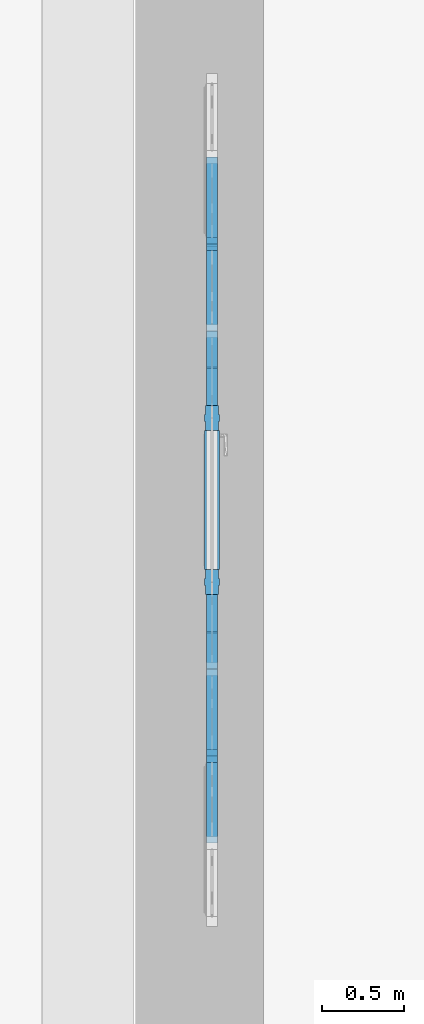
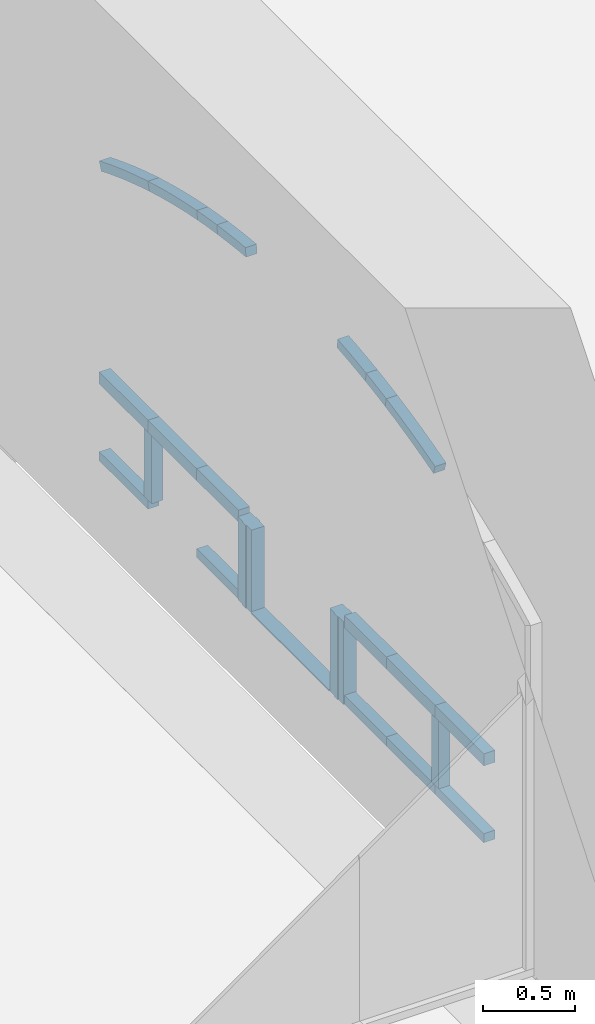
# One storey, part 32 of 88: 23 members, 1 element without a shape of its own.
"""IFC2X3 building model written with IfcOpenShell, lengths in millimetres."""

from ifc_helpers import new_model, entity, si_unit, converted_unit, derived_unit, direction, frame, frame_2d, origin, place, context, subcontext, project, spatial, polyline, circle_curve, parameter, trimmed, segment, composite_curve, rectangle, outline, extrude, source, transform, mapped, material, type_object, type_shapes, element, aggregate, save


model = new_model("IFC2X3")

# Units and contexts
model_context = context("Model", 3, precision=0.01, world=origin(), true_north=direction((6.123031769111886e-17, 1.0)))
body_context = subcontext(model_context, "Body", "Model", "MODEL_VIEW")
ifc_project = project(units=[si_unit("LENGTHUNIT", "METRE", prefix="MILLI"), si_unit("AREAUNIT", "SQUARE_METRE"), si_unit("VOLUMEUNIT", "CUBIC_METRE"), converted_unit("PLANEANGLEUNIT", "DEGREE", entity("IfcPlaneAngleMeasure", 0.017453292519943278), si_unit("PLANEANGLEUNIT", "RADIAN"), dimensions=[0, 0, 0, 0, 0, 0, 0]), si_unit("MASSUNIT", "GRAM", prefix="KILO"), derived_unit("MASSDENSITYUNIT", [(si_unit("MASSUNIT", "GRAM", prefix="KILO"), 1), (si_unit("LENGTHUNIT", "METRE"), -3)]), derived_unit("IONCONCENTRATIONUNIT", [(si_unit("MASSUNIT", "GRAM", prefix="KILO"), 1), (si_unit("LENGTHUNIT", "METRE"), -3)]), derived_unit("MOMENTOFINERTIAUNIT", [(si_unit("LENGTHUNIT", "METRE"), 4)]), si_unit("TIMEUNIT", "SECOND"), si_unit("FREQUENCYUNIT", "HERTZ"), si_unit("THERMODYNAMICTEMPERATUREUNIT", "DEGREE_CELSIUS"), derived_unit("THERMALTRANSMITTANCEUNIT", [(si_unit("MASSUNIT", "GRAM", prefix="KILO"), 1), (si_unit("THERMODYNAMICTEMPERATUREUNIT", "KELVIN"), -1), (si_unit("TIMEUNIT", "SECOND"), -3)]), derived_unit("THERMALCONDUCTANCEUNIT", [(si_unit("MASSUNIT", "GRAM", prefix="KILO"), 1), (si_unit("THERMODYNAMICTEMPERATUREUNIT", "KELVIN"), -1), (si_unit("TIMEUNIT", "SECOND"), -3), (si_unit("LENGTHUNIT", "METRE"), 1)]), derived_unit("VOLUMETRICFLOWRATEUNIT", [(si_unit("LENGTHUNIT", "METRE", prefix="DECI"), 3), (si_unit("TIMEUNIT", "SECOND"), -1)]), derived_unit("MASSFLOWRATEUNIT", [(si_unit("MASSUNIT", "GRAM", prefix="KILO"), 1), (si_unit("TIMEUNIT", "SECOND"), -1)]), derived_unit("ROTATIONALFREQUENCYUNIT", [(si_unit("TIMEUNIT", "SECOND"), -1)]), si_unit("ELECTRICCURRENTUNIT", "AMPERE"), si_unit("ELECTRICVOLTAGEUNIT", "VOLT"), si_unit("POWERUNIT", "WATT"), si_unit("FORCEUNIT", "NEWTON", prefix="KILO"), si_unit("ILLUMINANCEUNIT", "LUX"), si_unit("LUMINOUSFLUXUNIT", "LUMEN"), si_unit("LUMINOUSINTENSITYUNIT", "CANDELA"), si_unit("ENERGYUNIT", "JOULE"), derived_unit("USERDEFINED", [(si_unit("MASSUNIT", "GRAM", prefix="KILO"), -1), (si_unit("LENGTHUNIT", "METRE"), -2), (si_unit("TIMEUNIT", "SECOND"), 3), (si_unit("LUMINOUSFLUXUNIT", "LUMEN"), 1)]), derived_unit("USERDEFINED", [(si_unit("MASSUNIT", "GRAM", prefix="KILO"), 1), (si_unit("TIMEUNIT", "SECOND"), -3), (si_unit("LENGTHUNIT", "METRE"), 3), (si_unit("ELECTRICCURRENTUNIT", "AMPERE"), -2)]), derived_unit("SOUNDPOWERUNIT", [(si_unit("MASSUNIT", "GRAM", prefix="KILO"), 1), (si_unit("TIMEUNIT", "SECOND"), -3), (si_unit("LENGTHUNIT", "METRE"), 2)]), derived_unit("SOUNDPRESSUREUNIT", [(si_unit("MASSUNIT", "GRAM", prefix="KILO"), 1), (si_unit("LENGTHUNIT", "METRE"), -1), (si_unit("TIMEUNIT", "SECOND"), -2)]), derived_unit("LINEARVELOCITYUNIT", [(si_unit("LENGTHUNIT", "METRE"), 1), (si_unit("TIMEUNIT", "SECOND"), -1)]), si_unit("PRESSUREUNIT", "PASCAL"), derived_unit("USERDEFINED", [(si_unit("MASSUNIT", "GRAM", prefix="KILO"), 1), (si_unit("LENGTHUNIT", "METRE"), -2), (si_unit("TIMEUNIT", "SECOND"), -2)]), derived_unit("LINEARFORCEUNIT", [(si_unit("MASSUNIT", "GRAM", prefix="KILO"), 1), (si_unit("TIMEUNIT", "SECOND"), -2)]), derived_unit("PLANARFORCEUNIT", [(si_unit("MASSUNIT", "GRAM", prefix="KILO"), 1), (si_unit("LENGTHUNIT", "METRE"), -1), (si_unit("TIMEUNIT", "SECOND"), -2)]), derived_unit("SPECIFICHEATCAPACITYUNIT", [(si_unit("THERMODYNAMICTEMPERATUREUNIT", "KELVIN"), -1), (si_unit("LENGTHUNIT", "METRE"), 2), (si_unit("TIMEUNIT", "SECOND"), -2)]), derived_unit("HEATFLUXDENSITYUNIT", [(si_unit("MASSUNIT", "GRAM", prefix="KILO"), 1), (si_unit("TIMEUNIT", "SECOND"), -3)]), derived_unit("HEATINGVALUEUNIT", [(si_unit("LENGTHUNIT", "METRE"), 2), (si_unit("TIMEUNIT", "SECOND"), -2)]), derived_unit("VAPORPERMEABILITYUNIT", [(si_unit("LENGTHUNIT", "METRE"), -1), (si_unit("TIMEUNIT", "SECOND"), 1)]), derived_unit("DYNAMICVISCOSITYUNIT", [(si_unit("MASSUNIT", "GRAM", prefix="KILO"), 1), (si_unit("TIMEUNIT", "SECOND"), -1), (si_unit("LENGTHUNIT", "METRE"), -1)]), derived_unit("THERMALEXPANSIONCOEFFICIENTUNIT", [(si_unit("THERMODYNAMICTEMPERATUREUNIT", "KELVIN"), -1)]), derived_unit("MODULUSOFELASTICITYUNIT", [(si_unit("MASSUNIT", "GRAM", prefix="KILO"), 1), (si_unit("LENGTHUNIT", "METRE"), -1), (si_unit("TIMEUNIT", "SECOND"), -2)]), derived_unit("ISOTHERMALMOISTURECAPACITYUNIT", [(si_unit("MASSUNIT", "GRAM", prefix="KILO"), -1), (si_unit("LENGTHUNIT", "METRE"), 3)]), derived_unit("MOISTUREDIFFUSIVITYUNIT", [(si_unit("TIMEUNIT", "SECOND"), -1), (si_unit("LENGTHUNIT", "METRE"), 2)]), derived_unit("MASSPERLENGTHUNIT", [(si_unit("MASSUNIT", "GRAM", prefix="KILO"), 1), (si_unit("LENGTHUNIT", "METRE"), -1)]), derived_unit("THERMALRESISTANCEUNIT", [(si_unit("MASSUNIT", "GRAM", prefix="KILO"), -1), (si_unit("TIMEUNIT", "SECOND"), 3), (si_unit("THERMODYNAMICTEMPERATUREUNIT", "KELVIN"), 1)]), derived_unit("ACCELERATIONUNIT", [(si_unit("LENGTHUNIT", "METRE"), 1), (si_unit("TIMEUNIT", "SECOND"), -2)]), derived_unit("ANGULARVELOCITYUNIT", [(si_unit("TIMEUNIT", "SECOND"), -1), (si_unit("PLANEANGLEUNIT", "RADIAN"), 1)]), derived_unit("LINEARSTIFFNESSUNIT", [(si_unit("MASSUNIT", "GRAM", prefix="KILO"), 1), (si_unit("TIMEUNIT", "SECOND"), -2)]), derived_unit("WARPINGCONSTANTUNIT", [(si_unit("LENGTHUNIT", "METRE"), 6)]), derived_unit("LINEARMOMENTUNIT", [(si_unit("MASSUNIT", "GRAM", prefix="KILO"), 1), (si_unit("LENGTHUNIT", "METRE"), 1), (si_unit("TIMEUNIT", "SECOND"), -2)]), derived_unit("TORQUEUNIT", [(si_unit("MASSUNIT", "GRAM", prefix="KILO"), 1), (si_unit("LENGTHUNIT", "METRE"), 2), (si_unit("TIMEUNIT", "SECOND"), -2)])], contexts=[model_context])

# Site, building, storey
site_placement = place(None, origin())
site = spatial("IfcSite", under=ifc_project, at=site_placement, Name="Default", CompositionType="ELEMENT")
building_placement = place(site_placement, origin())
building = spatial("IfcBuilding", under=site, at=building_placement, Name="Eesti Rahvusraamatukogu hoone renoveerimise projekteerimistööd", CompositionType="ELEMENT")
storey_placement = place(building_placement, origin())
storey = spatial("IfcBuildingStorey", under=building, at=storey_placement, Name="1. korrus", CompositionType="ELEMENT", Elevation=0.0)

# Curtain wall, members
curtain_wall_type = type_object("IfcCurtainWallType", Name="Curtain Wall:Ak-05", PredefinedType="NOTDEFINED")
curtain_wall_placement = place(storey_placement, origin())
curtain_wall = element("IfcCurtainWall", 1, at=curtain_wall_placement, inside=storey, type_object=curtain_wall_type, Name="Curtain Wall:Ak-05", ObjectType="Curtain Wall:Ak-05")
ifc_material_1 = material(Name="LUMION_dark steel window frames")
member_type_1 = type_object("IfcMemberType", Name="Rectangular Mullion:NEW 60x70mm", PredefinedType="MULLION", material=ifc_material_1)
shared_shape_1 = source(origin(), body_context, "Body", "SweptSolid", [
    extrude(outline(composite_curve([segment(polyline([(-43.38278695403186, -270.80676601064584), (16.61721304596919, -270.80676601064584)]), True, "CONTINUOUS"), segment(trimmed(circle_curve(frame_2d((5479.897779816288, -270.80676601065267), x_axis=(-0.9951275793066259, 0.09859564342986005)), 5463.280566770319), [parameter(3.5622212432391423e-13)], [parameter(5.658307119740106)], True, "PARAMETER"), False, "CONTINUOUS"), segment(polyline([(43.23661433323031, 267.8488967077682), (-16.471040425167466, 273.7646353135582)]), True, "CONTINUOUS"), segment(trimmed(circle_curve(frame_2d((5479.897779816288, -270.80676601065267), x_axis=(-0.9951275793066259, 0.09859564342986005)), 5523.280566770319), [parameter(3.5622212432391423e-13)], [parameter(5.658307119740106)], True, "PARAMETER"), True, "CONTINUOUS")], self_intersect=False)), frame((-43.382786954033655, -35.0, -270.8067660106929), z_axis=(0.0, 1.0, 0.0), x_axis=(-0.9951275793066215, 0.0, 0.09859564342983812)), (0.0, 0.0, 1.0), 69.99999999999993),
])
type_shapes(member_type_1, [shared_shape_1])
member_1_placement = place(curtain_wall_placement, frame((-42905.0, 25865.0, 2125.118079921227), z_axis=(0.0, -0.9592847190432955, -0.28244083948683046), x_axis=(0.0, -0.28244083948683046, 0.9592847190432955)))
member_1 = element("IfcMember", 2, at=member_1_placement, type_object=member_type_1, material=ifc_material_1, Name="Rectangular Mullion:NEW 60x70mm", ObjectType="Rectangular Mullion:NEW 60x70mm", context=body_context, shape_type="MappedRepresentation", body=[
    mapped(shared_shape_1, transform((0.0, 0.0, 0.0), scale=1.0)),
])
member_type_2 = type_object("IfcMemberType", Name="Rectangular Mullion:NEW 60x70mm", PredefinedType="MULLION", material=ifc_material_1)
shared_shape_2 = source(origin(), body_context, "Body", "SweptSolid", [
    extrude(outline(composite_curve([segment(polyline([(-32.20246871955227, -109.97239538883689), (27.79753128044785, -109.97239538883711)]), True, "CONTINUOUS"), segment(trimmed(circle_curve(frame_2d((5491.078098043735, -109.97239538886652), x_axis=(-0.9991981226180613, 0.040038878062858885)), 5463.280566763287), [parameter(3.5622212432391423e-13)], [parameter(2.2946721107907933)], True, "PARAMETER"), False, "CONTINUOUS"), segment(polyline([(32.17841239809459, 108.77122904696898), (-27.7734749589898, 111.17356173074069)]), True, "CONTINUOUS"), segment(trimmed(circle_curve(frame_2d((5491.078098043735, -109.97239538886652), x_axis=(-0.9991981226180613, 0.040038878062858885)), 5523.280566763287), [parameter(3.5622212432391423e-13)], [parameter(2.2946721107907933)], True, "PARAMETER"), True, "CONTINUOUS")], self_intersect=False)), frame((-32.202468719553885, -35.0, -109.9723953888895), z_axis=(0.0, 1.0, 0.0), x_axis=(-0.9991981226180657, 0.0, 0.04003887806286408)), (0.0, 0.0, 1.0), 69.99999999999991),
])
type_shapes(member_type_2, [shared_shape_2])
member_2_placement = place(curtain_wall_placement, frame((-42905.0, 26395.0, 2253.1112564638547), z_axis=(0.0, -0.9824581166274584, -0.18648337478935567), x_axis=(0.0, -0.18648337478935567, 0.9824581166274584)))
member_2 = element("IfcMember", 3, at=member_2_placement, type_object=member_type_2, material=ifc_material_1, Name="Rectangular Mullion:NEW 60x70mm", ObjectType="Rectangular Mullion:NEW 60x70mm", context=body_context, shape_type="MappedRepresentation", body=[
    mapped(shared_shape_2, transform((0.0, 0.0, 0.0), scale=1.0)),
])
member_type_3 = type_object("IfcMemberType", Name="Rectangular Mullion:NEW 60x70mm", PredefinedType="MULLION", material=ifc_material_1)
shared_shape_3 = source(origin(), body_context, "Body", "SweptSolid", [
    extrude(outline(composite_curve([segment(polyline([(-44.19959331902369, -278.9278071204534), (15.8004066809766, -278.92780712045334)]), True, "CONTINUOUS"), segment(trimmed(circle_curve(frame_2d((5479.0809734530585, -278.9278071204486), x_axis=(-0.9948301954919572, 0.10155236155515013)), 5463.28056677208), [parameter(3.5622212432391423e-13)], [parameter(5.828569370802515)], True, "PARAMETER"), False, "CONTINUOUS"), segment(polyline([(44.04449918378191, 275.88123627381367), (-15.645312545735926, 281.97437796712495)]), True, "CONTINUOUS"), segment(trimmed(circle_curve(frame_2d((5479.0809734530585, -278.9278071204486), x_axis=(-0.9948301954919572, 0.10155236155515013)), 5523.28056677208), [parameter(3.5622212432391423e-13)], [parameter(5.828569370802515)], True, "PARAMETER"), True, "CONTINUOUS")], self_intersect=False)), frame((-44.199593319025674, -35.0, -278.9278071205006), z_axis=(0.0, 1.0, 0.0), x_axis=(-0.994830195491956, 0.0, 0.1015523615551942)), (0.0, 0.0, 1.0), 70.0),
])
type_shapes(member_type_3, [shared_shape_3])
member_3_placement = place(curtain_wall_placement, frame((-42905.0, 28985.0, 2125.118079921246), z_axis=(0.0, -0.9592847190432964, 0.28244083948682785), x_axis=(0.0, 0.28244083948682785, 0.9592847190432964)))
member_3 = element("IfcMember", 4, at=member_3_placement, type_object=member_type_3, material=ifc_material_1, Name="Rectangular Mullion:NEW 60x70mm", ObjectType="Rectangular Mullion:NEW 60x70mm", context=body_context, shape_type="MappedRepresentation", body=[
    mapped(shared_shape_3, transform((0.0, 0.0, 0.0), scale=1.0)),
])
member_type_4 = type_object("IfcMemberType", Name="Rectangular Mullion:NEW 60x70mm", PredefinedType="MULLION", material=ifc_material_1)
shared_shape_4 = source(origin(), body_context, "Body", "SweptSolid", [
    extrude(outline(composite_curve([segment(polyline([(-43.38278695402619, -270.80676601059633), (16.61721304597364, -270.8067660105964)]), True, "CONTINUOUS"), segment(trimmed(circle_curve(frame_2d((5479.897779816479, -270.8067660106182), x_axis=(-0.9951275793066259, 0.0985956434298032)), 5463.280566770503), [parameter(3.5622212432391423e-13)], [parameter(5.658307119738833)], True, "PARAMETER"), False, "CONTINUOUS"), segment(polyline([(43.23661433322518, 267.848896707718), (-16.471040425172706, 273.76463531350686)]), True, "CONTINUOUS"), segment(trimmed(circle_curve(frame_2d((5479.897779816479, -270.8067660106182), x_axis=(-0.9951275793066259, 0.0985956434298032)), 5523.280566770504), [parameter(3.5622212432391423e-13)], [parameter(5.658307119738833)], True, "PARAMETER"), True, "CONTINUOUS")], self_intersect=False)), frame((-43.38278695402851, -35.0, -270.8067660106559), z_axis=(0.0, 1.0, 0.0), x_axis=(-0.9951275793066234, 0.0, 0.09859564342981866)), (0.0, 0.0, 1.0), 69.99999999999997),
])
type_shapes(member_type_4, [shared_shape_4])
member_4_placement = place(curtain_wall_placement, frame((-42905.0, 28455.0, 2253.1112564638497), z_axis=(0.0, -0.9824581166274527, 0.18648337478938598), x_axis=(0.0, 0.18648337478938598, 0.9824581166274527)))
member_4 = element("IfcMember", 5, at=member_4_placement, type_object=member_type_4, material=ifc_material_1, Name="Rectangular Mullion:NEW 60x70mm", ObjectType="Rectangular Mullion:NEW 60x70mm", context=body_context, shape_type="MappedRepresentation", body=[
    mapped(shared_shape_4, transform((0.0, 0.0, 0.0), scale=1.0)),
])
member_type_5 = type_object("IfcMemberType", Name="Rectangular Mullion:NEW 60x70mm", PredefinedType="MULLION", material=ifc_material_1)
shared_shape_5 = source(origin(), body_context, "Body", "SweptSolid", [
    extrude(outline(composite_curve([segment(polyline([(-34.44225079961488, -156.14991642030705), (25.5577492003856, -156.14991642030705)]), True, "CONTINUOUS"), segment(trimmed(circle_curve(frame_2d((5488.8383159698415, -156.14991642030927), x_axis=(-0.9983826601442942, 0.05685124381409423)), 5463.280566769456), [parameter(3.5622212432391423e-13)], [parameter(3.2590935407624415)], True, "PARAMETER"), False, "CONTINUOUS"), segment(polyline([(34.393730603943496, 154.44437910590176), (-25.509229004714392, 157.8554537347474)]), True, "CONTINUOUS"), segment(trimmed(circle_curve(frame_2d((5488.8383159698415, -156.14991642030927), x_axis=(-0.9983826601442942, 0.05685124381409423)), 5523.280566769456), [parameter(3.5622212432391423e-13)], [parameter(3.2590935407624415)], True, "PARAMETER"), True, "CONTINUOUS")], self_intersect=False)), frame((-34.44225079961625, -35.0, -156.14991642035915), z_axis=(0.0, 1.0, 0.0), x_axis=(-0.9983826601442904, 0.0, 0.056851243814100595)), (0.0, 0.0, 1.0), 69.99999999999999),
])
type_shapes(member_type_5, [shared_shape_5])
member_5_placement = place(curtain_wall_placement, frame((-42905.0, 27925.0, 2327.3219656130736), z_axis=(0.0, -0.9958941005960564, 0.09052591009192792), x_axis=(0.0, 0.09052591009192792, 0.9958941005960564)))
member_5 = element("IfcMember", 6, at=member_5_placement, type_object=member_type_5, material=ifc_material_1, Name="Rectangular Mullion:NEW 60x70mm", ObjectType="Rectangular Mullion:NEW 60x70mm", context=body_context, shape_type="MappedRepresentation", body=[
    mapped(shared_shape_5, transform((0.0, 0.0, 0.0), scale=1.0)),
])
member_type_6 = type_object("IfcMemberType", Name="Rectangular Mullion:NEW 150x90mm", PredefinedType="MULLION", material=ifc_material_1)
shared_shape_6 = source(origin(), body_context, "Body", "SweptSolid", [
    extrude(outline(polyline([(40.0, -20.0), (45.0, -20.0), (45.0, 20.0), (40.0, 20.0), (40.0, 75.0), (-40.0, 75.0), (-40.0, 20.0), (-45.0, 20.0), (-45.0, -20.0), (-40.0, -20.0), (-40.0, -75.0), (40.0, -75.0), (40.0, -20.0)])), frame((0.0, 0.0, -550.0), z_axis=(0.0, 0.0, 1.0), x_axis=(0.0, -1.0, 0.0)), (0.0, 0.0, 1.0), 550.0000000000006),
])
type_shapes(member_type_6, [shared_shape_6])
member_6_placement = place(curtain_wall_placement, frame((-42905.0, 27925.0, -50.0), z_axis=(0.0, 0.0, -1.0), x_axis=(0.0, -1.0, 0.0)))
member_6 = element("IfcMember", 7, at=member_6_placement, type_object=member_type_6, material=ifc_material_1, Name="Rectangular Mullion:NEW 150x90mm", ObjectType="Rectangular Mullion:NEW 150x90mm", context=body_context, shape_type="MappedRepresentation", body=[
    mapped(shared_shape_6, transform((0.0, 0.0, 0.0), scale=1.0)),
])
member_7_placement = place(curtain_wall_placement, frame((-42905.0, 26925.0, -50.0), z_axis=(0.0, 0.0, -1.0), x_axis=(0.0, -1.0, 0.0)))
member_7 = element("IfcMember", 8, at=member_7_placement, type_object=member_type_6, material=ifc_material_1, Name="Rectangular Mullion:NEW 150x90mm", ObjectType="Rectangular Mullion:NEW 150x90mm", context=body_context, shape_type="MappedRepresentation", body=[
    mapped(shared_shape_6, transform((0.0, 0.0, 0.0), scale=1.0)),
])
member_type_7 = type_object("IfcMemberType", Name="Rectangular Mullion:NEW 80x70mm", PredefinedType="MULLION", material=ifc_material_1)
shared_shape_7 = source(origin(), body_context, "Body", "SweptSolid", [
    extrude(rectangle(XDim=80.0, YDim=70.0, at=frame_2d((0.0, -3.552713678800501e-15), x_axis=(1.0, 0.0))), frame((0.0, 0.0, -530.0), z_axis=(0.0, 0.0, 1.0), x_axis=(-1.0, 0.0, 0.0)), (0.0, 0.0, 1.0), 530.0000000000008),
])
type_shapes(member_type_7, [shared_shape_7])
member_8_placement = place(curtain_wall_placement, frame((-42905.0, 25335.0, 500.0), z_axis=(0.0, -1.0, 0.0), x_axis=(0.0, 0.0, 1.0)))
member_8 = element("IfcMember", 9, at=member_8_placement, type_object=member_type_7, material=ifc_material_1, Name="Rectangular Mullion:NEW 80x70mm", ObjectType="Rectangular Mullion:NEW 80x70mm", context=body_context, shape_type="MappedRepresentation", body=[
    mapped(shared_shape_7, transform((0.0, 0.0, 0.0), scale=1.0)),
])
member_9_placement = place(curtain_wall_placement, frame((-42905.0, 25865.0, 500.0), z_axis=(0.0, -1.0, 0.0), x_axis=(0.0, 0.0, 1.0)))
member_9 = element("IfcMember", 10, at=member_9_placement, type_object=member_type_7, material=ifc_material_1, Name="Rectangular Mullion:NEW 80x70mm", ObjectType="Rectangular Mullion:NEW 80x70mm", context=body_context, shape_type="MappedRepresentation", body=[
    mapped(shared_shape_7, transform((0.0, 0.0, 0.0), scale=1.0)),
])
member_10_placement = place(curtain_wall_placement, frame((-42905.0, 28985.0, 500.0), z_axis=(0.0, -1.0, 0.0), x_axis=(0.0, 0.0, 1.0)))
member_10 = element("IfcMember", 11, at=member_10_placement, type_object=member_type_7, material=ifc_material_1, Name="Rectangular Mullion:NEW 80x70mm", ObjectType="Rectangular Mullion:NEW 80x70mm", context=body_context, shape_type="MappedRepresentation", body=[
    mapped(shared_shape_7, transform((0.0, 0.0, 0.0), scale=1.0)),
])
member_11_placement = place(curtain_wall_placement, frame((-42905.0, 28455.0, 500.0), z_axis=(0.0, -1.0, 0.0), x_axis=(0.0, 0.0, 1.0)))
member_11 = element("IfcMember", 12, at=member_11_placement, type_object=member_type_7, material=ifc_material_1, Name="Rectangular Mullion:NEW 80x70mm", ObjectType="Rectangular Mullion:NEW 80x70mm", context=body_context, shape_type="MappedRepresentation", body=[
    mapped(shared_shape_7, transform((0.0, 0.0, 0.0), scale=1.0)),
])
member_type_8 = type_object("IfcMemberType", Name="Rectangular Mullion:NEW 80x70mm", PredefinedType="MULLION", material=ifc_material_1)
shared_shape_8 = source(origin(), body_context, "Body", "SweptSolid", [
    extrude(rectangle(XDim=80.0, YDim=70.0, at=frame_2d((0.0, -3.552713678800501e-15), x_axis=(1.0, 0.0))), frame((0.0, 0.0, -455.0), z_axis=(0.0, 0.0, 1.0), x_axis=(-1.0, 0.0, 0.0)), (0.0, 0.0, 1.0), 455.0000000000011),
])
type_shapes(member_type_8, [shared_shape_8])
member_12_placement = place(curtain_wall_placement, frame((-42905.0, 28000.0, 500.0), z_axis=(0.0, -1.0, 0.0), x_axis=(0.0, 0.0, 1.0)))
member_12 = element("IfcMember", 13, at=member_12_placement, type_object=member_type_8, material=ifc_material_1, Name="Rectangular Mullion:NEW 80x70mm", ObjectType="Rectangular Mullion:NEW 80x70mm", context=body_context, shape_type="MappedRepresentation", body=[
    mapped(shared_shape_8, transform((0.0, 0.0, 0.0), scale=1.0)),
])
member_type_9 = type_object("IfcMemberType", Name="Rectangular Mullion:NEW 80x70mm", PredefinedType="MULLION", material=ifc_material_1)
shared_shape_9 = source(origin(), body_context, "Body", "SweptSolid", [
    extrude(rectangle(XDim=80.0, YDim=70.0, at=frame_2d((0.0, -3.552713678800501e-15), x_axis=(1.0, 0.0))), frame((0.0, 0.0, -455.0), z_axis=(0.0, 0.0, 1.0), x_axis=(-1.0, 0.0, 0.0)), (0.0, 0.0, 1.0), 455.0000000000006),
])
type_shapes(member_type_9, [shared_shape_9])
member_13_placement = place(curtain_wall_placement, frame((-42905.0, 26395.0, 500.0), z_axis=(0.0, -1.0, 0.0), x_axis=(0.0, 0.0, 1.0)))
member_13 = element("IfcMember", 14, at=member_13_placement, type_object=member_type_9, material=ifc_material_1, Name="Rectangular Mullion:NEW 80x70mm", ObjectType="Rectangular Mullion:NEW 80x70mm", context=body_context, shape_type="MappedRepresentation", body=[
    mapped(shared_shape_9, transform((0.0, 0.0, 0.0), scale=1.0)),
])
member_type_10 = type_object("IfcMemberType", Name="Rectangular Mullion:NEW 80x70mm", PredefinedType="MULLION", material=ifc_material_1)
shared_shape_10 = source(origin(), body_context, "Body", "SweptSolid", [
    extrude(rectangle(XDim=80.0, YDim=70.0, at=frame_2d((0.0, 3.552713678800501e-15), x_axis=(1.0, 0.0))), frame((0.0, 0.0, -450.0), z_axis=(0.0, 0.0, 1.0), x_axis=(-1.0, 0.0, 0.0)), (0.0, 0.0, 1.0), 450.00000000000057),
])
type_shapes(member_type_10, [shared_shape_10])
member_14_placement = place(curtain_wall_placement, frame((-42905.0, 25865.0, 10.0), z_axis=(0.0, 0.0, -1.0), x_axis=(0.0, -1.0, 0.0)))
member_14 = element("IfcMember", 15, at=member_14_placement, type_object=member_type_10, material=ifc_material_1, Name="Rectangular Mullion:NEW 80x70mm", ObjectType="Rectangular Mullion:NEW 80x70mm", context=body_context, shape_type="MappedRepresentation", body=[
    mapped(shared_shape_10, transform((0.0, 0.0, 0.0), scale=1.0)),
])
member_15_placement = place(curtain_wall_placement, frame((-42905.0, 28985.0, 10.0), z_axis=(0.0, 0.0, -1.0), x_axis=(0.0, -1.0, 0.0)))
member_15 = element("IfcMember", 16, at=member_15_placement, type_object=member_type_10, material=ifc_material_1, Name="Rectangular Mullion:NEW 80x70mm", ObjectType="Rectangular Mullion:NEW 80x70mm", context=body_context, shape_type="MappedRepresentation", body=[
    mapped(shared_shape_10, transform((0.0, 0.0, 0.0), scale=1.0)),
])
member_type_11 = type_object("IfcMemberType", Name="Rectangular Mullion:NEW 60x70mm", PredefinedType="MULLION", material=ifc_material_1)
shared_shape_11 = source(origin(), body_context, "Body", "SweptSolid", [
    extrude(rectangle(XDim=60.0, YDim=70.0, at=frame_2d((0.0, 3.552713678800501e-15), x_axis=(1.0, 0.0))), frame((-30.0, 0.0, -530.0), z_axis=(0.0, 0.0, 1.0), x_axis=(-1.0, 0.0, 0.0)), (0.0, 0.0, 1.0), 530.0000000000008),
])
type_shapes(member_type_11, [shared_shape_11])
member_16_placement = place(curtain_wall_placement, frame((-42905.0, 25865.0, -50.0), z_axis=(0.0, 1.0, 0.0), x_axis=(0.0, 0.0, -1.0)))
member_16 = element("IfcMember", 17, at=member_16_placement, type_object=member_type_11, material=ifc_material_1, Name="Rectangular Mullion:NEW 60x70mm", ObjectType="Rectangular Mullion:NEW 60x70mm", context=body_context, shape_type="MappedRepresentation", body=[
    mapped(shared_shape_11, transform((0.0, 0.0, 0.0), scale=1.0)),
])
member_type_12 = type_object("IfcMemberType", Name="Rectangular Mullion:NEW 60x70mm", PredefinedType="MULLION", material=ifc_material_1)
shared_shape_12 = source(origin(), body_context, "Body", "SweptSolid", [
    extrude(rectangle(XDim=60.0, YDim=70.0, at=frame_2d((0.0, 3.552713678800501e-15), x_axis=(1.0, 0.0))), frame((-30.0, 0.0, -530.0), z_axis=(0.0, 0.0, 1.0), x_axis=(-1.0, 0.0, 0.0)), (0.0, 0.0, 1.0), 530.0000000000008),
])
type_shapes(member_type_12, [shared_shape_12])
member_17_placement = place(curtain_wall_placement, frame((-42905.0, 26395.0, -50.0), z_axis=(0.0, 1.0, 0.0), x_axis=(0.0, 0.0, -1.0)))
member_17 = element("IfcMember", 18, at=member_17_placement, type_object=member_type_12, material=ifc_material_1, Name="Rectangular Mullion:NEW 60x70mm", ObjectType="Rectangular Mullion:NEW 60x70mm", context=body_context, shape_type="MappedRepresentation", body=[
    mapped(shared_shape_12, transform((0.0, 0.0, 0.0), scale=1.0)),
])
member_18_placement = place(curtain_wall_placement, frame((-42905.0, 29515.0, -50.0), z_axis=(0.0, 1.0, 0.0), x_axis=(0.0, 0.0, -1.0)))
member_18 = element("IfcMember", 19, at=member_18_placement, type_object=member_type_12, material=ifc_material_1, Name="Rectangular Mullion:NEW 60x70mm", ObjectType="Rectangular Mullion:NEW 60x70mm", context=body_context, shape_type="MappedRepresentation", body=[
    mapped(shared_shape_12, transform((0.0, 0.0, 0.0), scale=1.0)),
])
member_type_13 = type_object("IfcMemberType", Name="Rectangular Mullion:NEW 60x70mm", PredefinedType="MULLION", material=ifc_material_1)
shared_shape_13 = source(origin(), body_context, "Body", "SweptSolid", [
    extrude(rectangle(XDim=60.0, YDim=70.0, at=frame_2d((0.0, 3.552713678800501e-15), x_axis=(1.0, 0.0))), frame((-30.0, 0.0, -455.0), z_axis=(0.0, 0.0, 1.0), x_axis=(-1.0, 0.0, 0.0)), (0.0, 0.0, 1.0), 455.0000000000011),
])
type_shapes(member_type_13, [shared_shape_13])
member_19_placement = place(curtain_wall_placement, frame((-42905.0, 28455.0, -50.0), z_axis=(0.0, 1.0, 0.0), x_axis=(0.0, 0.0, -1.0)))
member_19 = element("IfcMember", 20, at=member_19_placement, type_object=member_type_13, material=ifc_material_1, Name="Rectangular Mullion:NEW 60x70mm", ObjectType="Rectangular Mullion:NEW 60x70mm", context=body_context, shape_type="MappedRepresentation", body=[
    mapped(shared_shape_13, transform((0.0, 0.0, 0.0), scale=1.0)),
])
member_type_14 = type_object("IfcMemberType", Name="Rectangular Mullion:NEW 60x70mm", PredefinedType="MULLION", material=ifc_material_1)
shared_shape_14 = source(origin(), body_context, "Body", "SweptSolid", [
    extrude(rectangle(XDim=60.0, YDim=70.0, at=frame_2d((0.0, 3.552713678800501e-15), x_axis=(1.0, 0.0))), frame((-30.0, 0.0, -455.0), z_axis=(0.0, 0.0, 1.0), x_axis=(-1.0, 0.0, 0.0)), (0.0, 0.0, 1.0), 455.0000000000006),
])
type_shapes(member_type_14, [shared_shape_14])
member_20_placement = place(curtain_wall_placement, frame((-42905.0, 26850.0, -50.0), z_axis=(0.0, 1.0, 0.0), x_axis=(0.0, 0.0, -1.0)))
member_20 = element("IfcMember", 21, at=member_20_placement, type_object=member_type_14, material=ifc_material_1, Name="Rectangular Mullion:NEW 60x70mm", ObjectType="Rectangular Mullion:NEW 60x70mm", context=body_context, shape_type="MappedRepresentation", body=[
    mapped(shared_shape_14, transform((0.0, 0.0, 0.0), scale=1.0)),
])
ifc_material_2 = material(Name="Lumion_aluminium")
member_type_15 = type_object("IfcMemberType", Name="Rectangular Mullion:NEW 10x90mm", PredefinedType="MULLION", material=ifc_material_2)
shared_shape_15 = source(origin(), body_context, "Body", "SweptSolid", [
    extrude(rectangle(XDim=10.0, YDim=90.0, at=frame_2d((0.0, 3.552713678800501e-15), x_axis=(1.0, 0.0))), frame((-5.0, 0.0, -850.0), z_axis=(0.0, 0.0, 1.0), x_axis=(-1.0, 0.0, 0.0)), (0.0, 0.0, 1.0), 849.9999999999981),
])
type_shapes(member_type_15, [shared_shape_15])
member_21_placement = place(curtain_wall_placement, frame((-42905.0, 27850.0, -50.0), z_axis=(0.0, 1.0, 0.0), x_axis=(0.0, 0.0, -1.0)))
member_21 = element("IfcMember", 22, at=member_21_placement, type_object=member_type_15, material=ifc_material_2, Name="Rectangular Mullion:NEW 10x90mm", ObjectType="Rectangular Mullion:NEW 10x90mm", context=body_context, shape_type="MappedRepresentation", body=[
    mapped(shared_shape_15, transform((0.0, 0.0, 0.0), scale=1.0)),
])
member_type_16 = type_object("IfcMemberType", Name="Rectangular Mullion:NEW 60x70mm", PredefinedType="MULLION", material=ifc_material_1)
shared_shape_16 = source(origin(), body_context, "Body", "SweptSolid", [
    extrude(outline(composite_curve([segment(polyline([(-34.44225079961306, -156.14991642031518), (25.55774920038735, -156.14991642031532)]), True, "CONTINUOUS"), segment(trimmed(circle_curve(frame_2d((5488.838315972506, -156.14991642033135), x_axis=(-0.9983826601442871, 0.05685124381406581)), 5463.2805667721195), [parameter(3.5622212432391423e-13)], [parameter(3.2590935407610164)], True, "PARAMETER"), False, "CONTINUOUS"), segment(polyline([(34.393730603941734, 154.44437910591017), (-25.509229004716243, 157.8554537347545)]), True, "CONTINUOUS"), segment(trimmed(circle_curve(frame_2d((5488.838315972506, -156.14991642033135), x_axis=(-0.9983826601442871, 0.05685124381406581)), 5523.2805667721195), [parameter(3.5622212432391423e-13)], [parameter(3.2590935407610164)], True, "PARAMETER"), True, "CONTINUOUS")], self_intersect=False)), frame((-34.44225079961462, -35.0, -156.14991642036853), z_axis=(0.0, 1.0, 0.0), x_axis=(-0.9983826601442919, 0.0, 0.056851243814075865)), (0.0, 0.0, 1.0), 69.99999999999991),
])
type_shapes(member_type_16, [shared_shape_16])
member_22_placement = place(curtain_wall_placement, frame((-42905.0, 26613.092574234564, 2290.0), z_axis=(0.0, -0.9891368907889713, -0.14699731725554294), x_axis=(0.0, -0.14699731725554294, 0.9891368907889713)))
member_22 = element("IfcMember", 23, at=member_22_placement, type_object=member_type_16, material=ifc_material_1, Name="Rectangular Mullion:NEW 60x70mm", ObjectType="Rectangular Mullion:NEW 60x70mm", context=body_context, shape_type="MappedRepresentation", body=[
    mapped(shared_shape_16, transform((0.0, 0.0, 0.0), scale=1.0)),
])
member_type_17 = type_object("IfcMemberType", Name="Rectangular Mullion:NEW 60x70mm", PredefinedType="MULLION", material=ifc_material_1)
shared_shape_17 = source(origin(), body_context, "Body", "SweptSolid", [
    extrude(outline(composite_curve([segment(polyline([(-32.202468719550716, -109.97239538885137), (27.79753128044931, -109.97239538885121)]), True, "CONTINUOUS"), segment(trimmed(circle_curve(frame_2d((5491.078098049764, -109.97239538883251), x_axis=(-0.9991981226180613, 0.04003887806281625)), 5463.280566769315), [parameter(3.5622212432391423e-13)], [parameter(2.294672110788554)], True, "PARAMETER"), False, "CONTINUOUS"), segment(polyline([(32.17841239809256, 108.77122904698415), (-27.773474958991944, 111.17356173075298)]), True, "CONTINUOUS"), segment(trimmed(circle_curve(frame_2d((5491.078098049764, -109.97239538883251), x_axis=(-0.9991981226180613, 0.04003887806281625)), 5523.280566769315), [parameter(3.5622212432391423e-13)], [parameter(2.294672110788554)], True, "PARAMETER"), True, "CONTINUOUS")], self_intersect=False)), frame((-32.202468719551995, -35.0, -109.97239538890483), z_axis=(0.0, 1.0, 0.0), x_axis=(-0.9991981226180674, 0.0, 0.04003887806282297)), (0.0, 0.0, 1.0), 69.99999999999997),
])
type_shapes(member_type_17, [shared_shape_17])
member_23_placement = place(curtain_wall_placement, frame((-42905.0, 28236.907425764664, 2290.0), z_axis=(0.0, -0.9891368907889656, 0.14699731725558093), x_axis=(0.0, 0.14699731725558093, 0.9891368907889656)))
member_23 = element("IfcMember", 24, at=member_23_placement, type_object=member_type_17, material=ifc_material_1, Name="Rectangular Mullion:NEW 60x70mm", ObjectType="Rectangular Mullion:NEW 60x70mm", context=body_context, shape_type="MappedRepresentation", body=[
    mapped(shared_shape_17, transform((0.0, 0.0, 0.0), scale=1.0)),
])
aggregate(curtain_wall, [member_1, member_2, member_3, member_4, member_5, member_6, member_7, member_8, member_9, member_10, member_11, member_12, member_13, member_14, member_15, member_16, member_17, member_18, member_19, member_20, member_21, member_22, member_23])

save(model, "model.ifc")
